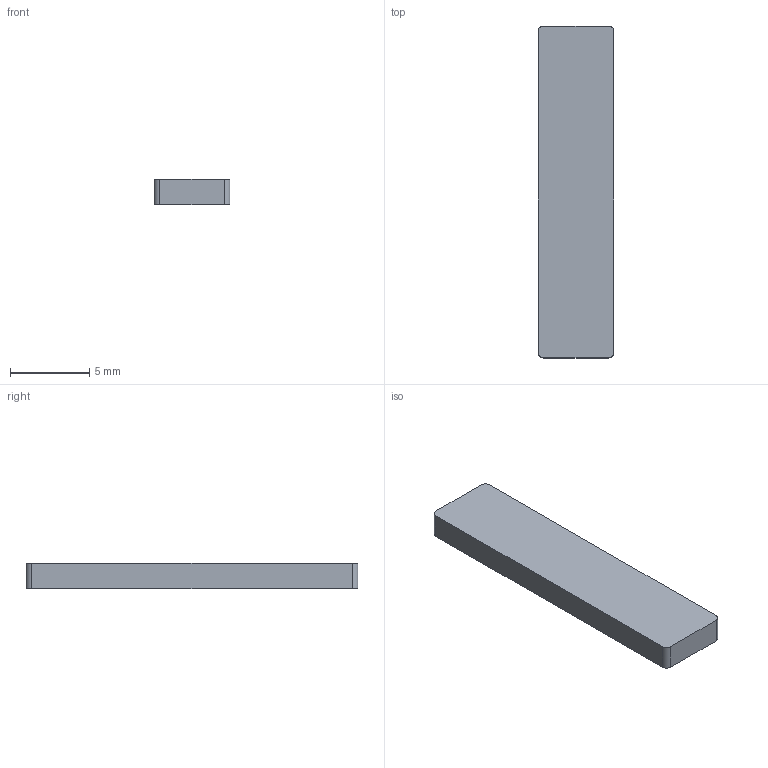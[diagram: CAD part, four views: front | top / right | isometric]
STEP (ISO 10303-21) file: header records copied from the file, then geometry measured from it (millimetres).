
FILE_DESCRIPTION(('Open CASCADE Model'),'2;1');
FILE_NAME('Open CASCADE Shape Model','2026-09-09T11:54:03',('Author'),( 'Open CASCADE'),'Open CASCADE STEP processor 7.7','Open CASCADE 7.7' ,'Unknown');
FILE_SCHEMA(('AUTOMOTIVE_DESIGN { 1 0 10303 214 1 1 1 1 }'));
Length unit declared in the file: millimetre
Products named in the file (1): Open CASCADE STEP translator 7.7 2
Bounding box: 4.8 x 21 x 1.6 mm (x, y, z)
Volume: 161.1 mm3; surface area: 283 mm2
Topology: 1 solids, 1 shells, 10 faces, 24 edges, 16 vertices
Faces by surface type: plane 6, cylinder 4
Entity records: 630 total; most frequent: CARTESIAN_POINT 123, DIRECTION 98, LINE 56, VECTOR 56, ORIENTED_EDGE 48, PCURVE 48, DEFINITIONAL_REPRESENTATION 48, EDGE_CURVE 24
